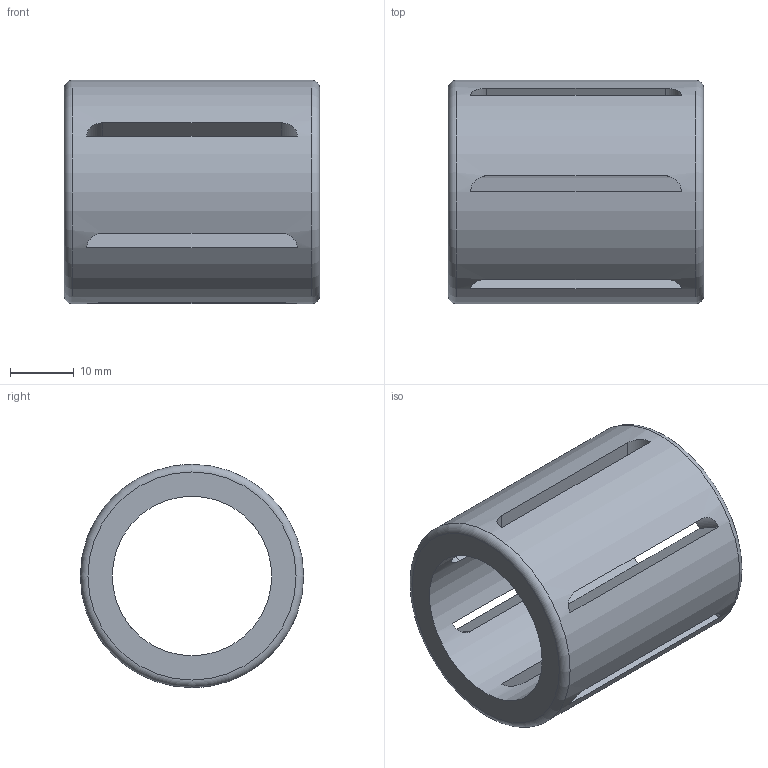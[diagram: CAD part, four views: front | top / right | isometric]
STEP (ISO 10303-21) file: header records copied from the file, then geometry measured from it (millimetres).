
FILE_DESCRIPTION(/* description */ ('Unknown'),/* implementation_level */ '2;1');
FILE_NAME(/* name */ 'KH2540',/* time_stamp */ '2025-02-04T09:51:37+08:00',/* author */ ('Unknown'),/* organization */ ('Unknown'),/* preprocessor_version */ 'ST-DEVELOPER v18.102',/* originating_system */ 'Solid Edge',/* authorisation */ 'Unknown');
FILE_SCHEMA (('AUTOMOTIVE_DESIGN {1 0 10303 214 3 1 1}'));
Length unit declared in the file: millimetre
Products named in the file (1): KH2540
Bounding box: 40 x 35 x 35 mm (x, y, z)
Volume: 16377 mm3; surface area: 9484.9 mm2
Topology: 1 solids, 1 shells, 30 faces, 84 edges, 54 vertices
Faces by surface type: cylinder 14, plane 14, torus 2
Full cylindrical faces by diameter (mm): 25 x1, 35 x1
Entity records: 1022 total; most frequent: CARTESIAN_POINT 259, ORIENTED_EDGE 156, DIRECTION 122, EDGE_CURVE 78, VERTEX_POINT 54, LINE 48, VECTOR 48, EDGE_LOOP 48
